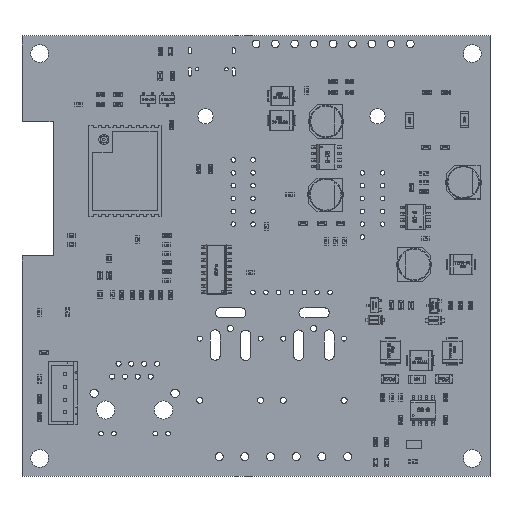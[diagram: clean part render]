
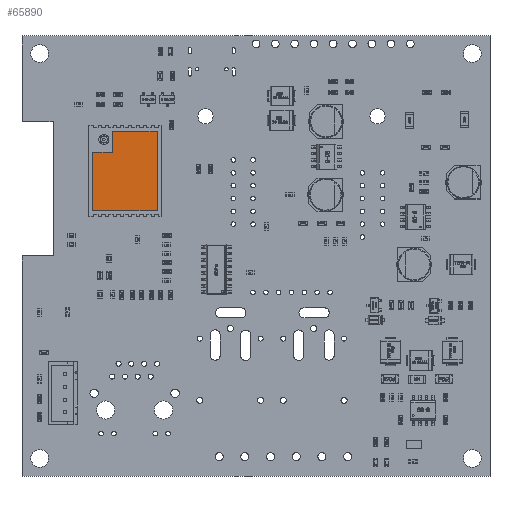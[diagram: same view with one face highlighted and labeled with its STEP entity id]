
A CAD part, top view. The second image highlights one B-rep face of the part: STEP entity #65890.
In plain terms, the highlighted planar face has unit normal (0, 0, 1).
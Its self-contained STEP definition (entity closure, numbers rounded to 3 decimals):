
#65752 = VERTEX_POINT('',#65753);
#65753 = CARTESIAN_POINT('',(1.15,13.525,3.2));
#65759 = EDGE_CURVE('',#65760,#65752,#65762,.T.);
#65760 = VERTEX_POINT('',#65761);
#65761 = CARTESIAN_POINT('',(12.65,13.525,3.2));
#65762 = LINE('',#65763,#65764);
#65763 = CARTESIAN_POINT('',(12.65,13.525,3.2));
#65764 = VECTOR('',#65765,1.);
#65765 = DIRECTION('',(-1.,0.,0.));
#65783 = VERTEX_POINT('',#65784);
#65784 = CARTESIAN_POINT('',(1.15,0.775,3.2));
#65790 = EDGE_CURVE('',#65752,#65783,#65791,.T.);
#65791 = LINE('',#65792,#65793);
#65792 = CARTESIAN_POINT('',(1.15,13.525,3.2));
#65793 = VECTOR('',#65794,1.);
#65794 = DIRECTION('',(0.,-1.,0.));
#65807 = VERTEX_POINT('',#65808);
#65808 = CARTESIAN_POINT('',(16.85,0.775,3.2));
#65814 = EDGE_CURVE('',#65783,#65807,#65815,.T.);
#65815 = LINE('',#65816,#65817);
#65816 = CARTESIAN_POINT('',(1.15,0.775,3.2));
#65817 = VECTOR('',#65818,1.);
#65818 = DIRECTION('',(1.,0.,0.));
#65831 = VERTEX_POINT('',#65832);
#65832 = CARTESIAN_POINT('',(16.85,9.625,3.2));
#65838 = EDGE_CURVE('',#65807,#65831,#65839,.T.);
#65839 = LINE('',#65840,#65841);
#65840 = CARTESIAN_POINT('',(16.85,9.625,3.2));
#65841 = VECTOR('',#65842,1.);
#65842 = DIRECTION('',(0.,1.,0.));
#65855 = VERTEX_POINT('',#65856);
#65856 = CARTESIAN_POINT('',(12.65,9.625,3.2));
#65862 = EDGE_CURVE('',#65831,#65855,#65863,.T.);
#65863 = LINE('',#65864,#65865);
#65864 = CARTESIAN_POINT('',(12.65,9.625,3.2));
#65865 = VECTOR('',#65866,1.);
#65866 = DIRECTION('',(-1.,0.,0.));
#65879 = EDGE_CURVE('',#65855,#65760,#65880,.T.);
#65880 = LINE('',#65881,#65882);
#65881 = CARTESIAN_POINT('',(12.65,13.525,3.2));
#65882 = VECTOR('',#65883,1.);
#65883 = DIRECTION('',(0.,1.,0.));
#65890 = ADVANCED_FACE('',(#65891),#65899,.T.);
#65891 = FACE_BOUND('',#65892,.T.);
#65892 = EDGE_LOOP('',(#65893,#65894,#65895,#65896,#65897,#65898));
#65893 = ORIENTED_EDGE('',*,*,#65759,.T.);
#65894 = ORIENTED_EDGE('',*,*,#65790,.T.);
#65895 = ORIENTED_EDGE('',*,*,#65814,.T.);
#65896 = ORIENTED_EDGE('',*,*,#65838,.T.);
#65897 = ORIENTED_EDGE('',*,*,#65862,.T.);
#65898 = ORIENTED_EDGE('',*,*,#65879,.T.);
#65899 = PLANE('',#65900);
#65900 = AXIS2_PLACEMENT_3D('',#65901,#65902,#65903);
#65901 = CARTESIAN_POINT('',(0.,0.,3.2));
#65902 = DIRECTION('',(0.,0.,1.));
#65903 = DIRECTION('',(1.,0.,0.));
